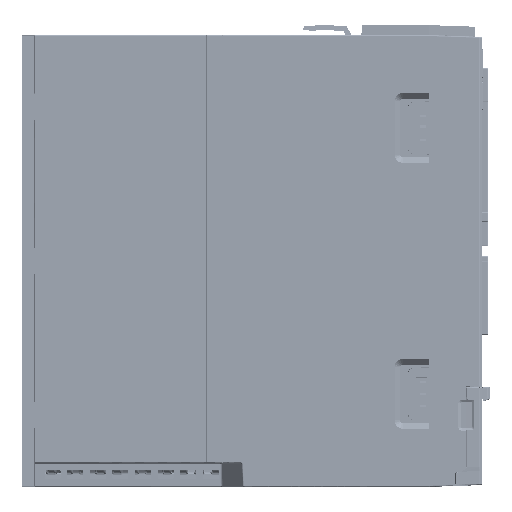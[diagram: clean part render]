
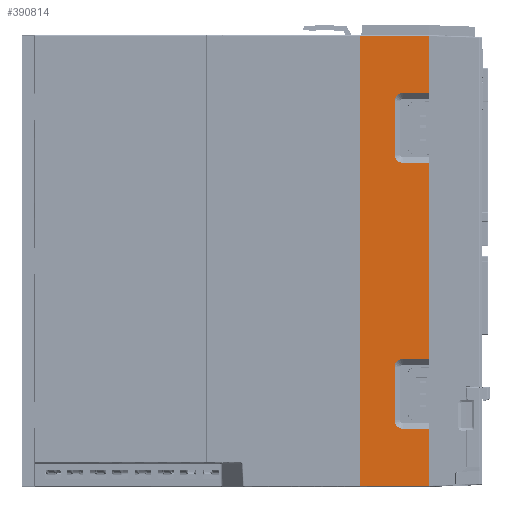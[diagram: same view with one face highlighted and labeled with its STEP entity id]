
A CAD part, left-side view. The second image highlights one B-rep face of the part: STEP entity #390814.
In plain terms, the highlighted planar face has unit normal (-1, 0, 0).
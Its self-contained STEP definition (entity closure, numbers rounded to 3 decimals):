
#368023=CARTESIAN_POINT('',(-27.5,-66.528,-84.5));
#368037=CARTESIAN_POINT('',(-27.5,-40.535,-84.5));
#368039=DIRECTION('',(0.,-1.,0.));
#368040=VECTOR('',#368039,25.992);
#368041=CARTESIAN_POINT('',(-27.5,-40.535,-84.5));
#368042=LINE('',#368041,#368040);
#370220=DIRECTION('',(0.,1.,0.));
#370221=VECTOR('',#370220,25.992);
#370222=CARTESIAN_POINT('',(-27.5,-66.528,84.5));
#370223=LINE('',#370222,#370221);
#370224=CARTESIAN_POINT('',(-27.5,-40.535,84.5));
#370240=CARTESIAN_POINT('',(-27.5,-56.7,-40.));
#370241=DIRECTION('',(-1.,0.,0.));
#370242=DIRECTION('',(0.,0.,1.));
#370243=AXIS2_PLACEMENT_3D('',#370240,#370241,#370242);
#370245=DIRECTION('',(0.,0.,-1.));
#370246=VECTOR('',#370245,20.);
#370247=CARTESIAN_POINT('',(-27.5,-53.6,-40.));
#370248=LINE('',#370247,#370246);
#370249=CARTESIAN_POINT('',(-27.5,-56.7,-60.));
#370250=DIRECTION('',(-1.,0.,0.));
#370251=DIRECTION('',(0.,1.,0.));
#370252=AXIS2_PLACEMENT_3D('',#370249,#370250,#370251);
#370254=DIRECTION('',(0.,-1.,0.));
#370255=VECTOR('',#370254,9.828);
#370256=CARTESIAN_POINT('',(-27.5,-56.7,-63.1));
#370257=LINE('',#370256,#370255);
#370258=DIRECTION('',(0.,0.,-1.));
#370259=VECTOR('',#370258,21.4);
#370260=CARTESIAN_POINT('',(-27.5,-66.528,-63.1));
#370261=LINE('',#370260,#370259);
#370262=DIRECTION('',(0.,0.,1.));
#370263=VECTOR('',#370262,169.);
#370264=CARTESIAN_POINT('',(-27.5,-40.535,-84.5));
#370265=LINE('',#370264,#370263);
#370266=DIRECTION('',(0.,0.,-1.));
#370267=VECTOR('',#370266,21.4);
#370268=CARTESIAN_POINT('',(-27.5,-66.528,84.5));
#370269=LINE('',#370268,#370267);
#370270=DIRECTION('',(0.,1.,0.));
#370271=VECTOR('',#370270,9.828);
#370272=CARTESIAN_POINT('',(-27.5,-66.528,63.1));
#370273=LINE('',#370272,#370271);
#370274=CARTESIAN_POINT('',(-27.5,-56.7,60.));
#370275=DIRECTION('',(-1.,0.,0.));
#370276=DIRECTION('',(0.,0.,1.));
#370277=AXIS2_PLACEMENT_3D('',#370274,#370275,#370276);
#370279=DIRECTION('',(0.,0.,-1.));
#370280=VECTOR('',#370279,20.);
#370281=CARTESIAN_POINT('',(-27.5,-53.6,60.));
#370282=LINE('',#370281,#370280);
#370283=CARTESIAN_POINT('',(-27.5,-56.7,40.));
#370284=DIRECTION('',(-1.,0.,0.));
#370285=DIRECTION('',(0.,1.,0.));
#370286=AXIS2_PLACEMENT_3D('',#370283,#370284,#370285);
#370288=DIRECTION('',(0.,-1.,0.));
#370289=VECTOR('',#370288,9.828);
#370290=CARTESIAN_POINT('',(-27.5,-56.7,36.9));
#370291=LINE('',#370290,#370289);
#370292=DIRECTION('',(0.,0.,-1.));
#370293=VECTOR('',#370292,73.8);
#370294=CARTESIAN_POINT('',(-27.5,-66.528,36.9));
#370295=LINE('',#370294,#370293);
#370296=DIRECTION('',(0.,1.,0.));
#370297=VECTOR('',#370296,9.828);
#370298=CARTESIAN_POINT('',(-27.5,-66.528,-36.9));
#370299=LINE('',#370298,#370297);
#380662=CARTESIAN_POINT('',(-27.5,-66.528,63.1));
#380664=VERTEX_POINT('',#380662);
#380665=CARTESIAN_POINT('',(-27.5,-66.528,84.5));
#380666=VERTEX_POINT('',#380665);
#380753=CARTESIAN_POINT('',(-27.5,-66.528,-36.9));
#380755=VERTEX_POINT('',#380753);
#380756=CARTESIAN_POINT('',(-27.5,-66.528,36.9));
#380757=VERTEX_POINT('',#380756);
#380762=CARTESIAN_POINT('',(-27.5,-56.7,-36.9));
#380763=VERTEX_POINT('',#380762);
#380796=CARTESIAN_POINT('',(-27.5,-66.528,-63.1));
#380797=VERTEX_POINT('',#380796);
#380798=CARTESIAN_POINT('',(-27.5,-56.7,-63.1));
#380799=VERTEX_POINT('',#380798);
#380801=VERTEX_POINT('',#368023);
#380805=VERTEX_POINT('',#368037);
#381518=VERTEX_POINT('',#370224);
#381520=CARTESIAN_POINT('',(-27.5,-53.6,-40.));
#381521=VERTEX_POINT('',#381520);
#381522=CARTESIAN_POINT('',(-27.5,-53.6,-60.));
#381523=VERTEX_POINT('',#381522);
#381524=CARTESIAN_POINT('',(-27.5,-56.7,63.1));
#381525=VERTEX_POINT('',#381524);
#381526=CARTESIAN_POINT('',(-27.5,-53.6,60.));
#381527=VERTEX_POINT('',#381526);
#381528=CARTESIAN_POINT('',(-27.5,-53.6,40.));
#381529=VERTEX_POINT('',#381528);
#381530=CARTESIAN_POINT('',(-27.5,-56.7,36.9));
#381531=VERTEX_POINT('',#381530);
#390779=CARTESIAN_POINT('',(-27.5,-86.5,-85.));
#390780=DIRECTION('',(-1.,0.,0.));
#390781=DIRECTION('',(0.,0.,-1.));
#390782=AXIS2_PLACEMENT_3D('',#390779,#390780,#390781);
#390783=PLANE('',#390782);
#390785=ORIENTED_EDGE('',*,*,#390784,.T.);
#390787=ORIENTED_EDGE('',*,*,#390786,.T.);
#390789=ORIENTED_EDGE('',*,*,#390788,.T.);
#390790=ORIENTED_EDGE('',*,*,#389021,.T.);
#390792=ORIENTED_EDGE('',*,*,#390791,.T.);
#390793=ORIENTED_EDGE('',*,*,#389039,.F.);
#390795=ORIENTED_EDGE('',*,*,#390794,.T.);
#390796=ORIENTED_EDGE('',*,*,#390769,.F.);
#390798=ORIENTED_EDGE('',*,*,#390797,.T.);
#390800=ORIENTED_EDGE('',*,*,#390799,.T.);
#390802=ORIENTED_EDGE('',*,*,#390801,.T.);
#390804=ORIENTED_EDGE('',*,*,#390803,.T.);
#390806=ORIENTED_EDGE('',*,*,#390805,.T.);
#390808=ORIENTED_EDGE('',*,*,#390807,.T.);
#390810=ORIENTED_EDGE('',*,*,#390809,.T.);
#390811=ORIENTED_EDGE('',*,*,#388956,.T.);
#390812=EDGE_LOOP('',(#390785,#390787,#390789,#390790,#390792,#390793,#390795,
#390796,#390798,#390800,#390802,#390804,#390806,#390808,#390810,#390811));
#390813=FACE_OUTER_BOUND('',#390812,.F.);
#390814=ADVANCED_FACE('',(#390813),#390783,.T.);
#370244=CIRCLE('',#370243,3.1);
#370253=CIRCLE('',#370252,3.1);
#370278=CIRCLE('',#370277,3.1);
#370287=CIRCLE('',#370286,3.1);
#388956=EDGE_CURVE('',#380755,#380763,#370299,.T.);
#389021=EDGE_CURVE('',#380799,#380797,#370257,.T.);
#389039=EDGE_CURVE('',#380805,#380801,#368042,.T.);
#390769=EDGE_CURVE('',#380666,#381518,#370223,.T.);
#390784=EDGE_CURVE('',#380763,#381521,#370244,.T.);
#390786=EDGE_CURVE('',#381521,#381523,#370248,.T.);
#390788=EDGE_CURVE('',#381523,#380799,#370253,.T.);
#390791=EDGE_CURVE('',#380797,#380801,#370261,.T.);
#390794=EDGE_CURVE('',#380805,#381518,#370265,.T.);
#390797=EDGE_CURVE('',#380666,#380664,#370269,.T.);
#390799=EDGE_CURVE('',#380664,#381525,#370273,.T.);
#390801=EDGE_CURVE('',#381525,#381527,#370278,.T.);
#390803=EDGE_CURVE('',#381527,#381529,#370282,.T.);
#390805=EDGE_CURVE('',#381529,#381531,#370287,.T.);
#390807=EDGE_CURVE('',#381531,#380757,#370291,.T.);
#390809=EDGE_CURVE('',#380757,#380755,#370295,.T.);
